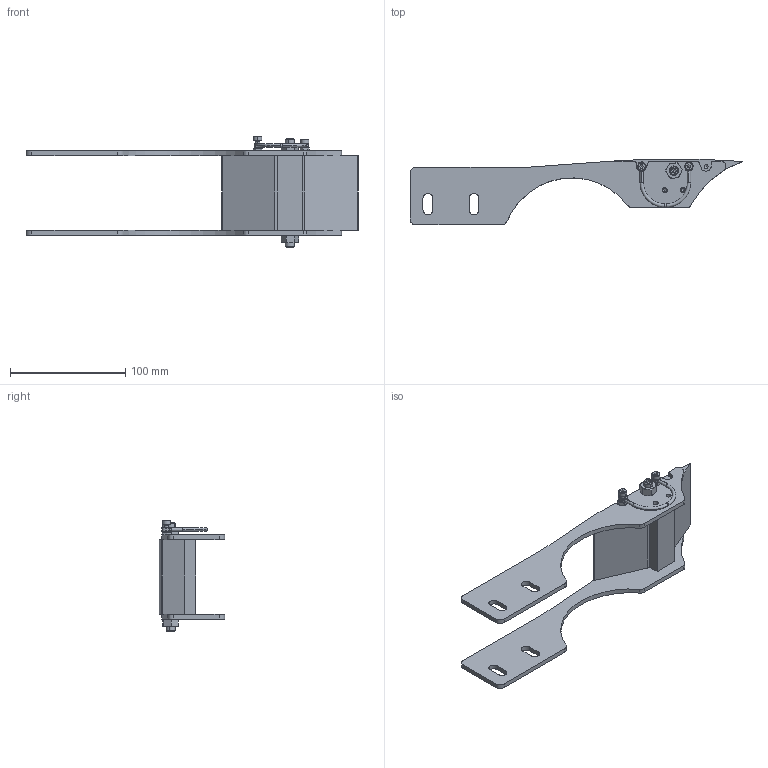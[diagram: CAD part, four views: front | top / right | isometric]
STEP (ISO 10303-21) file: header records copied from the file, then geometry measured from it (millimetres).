
FILE_DESCRIPTION (( 'STEP AP214' ), '1' );
FILE_NAME ('FSTB A65P.step', '2017-04-07T11:10:10', ( '' ), ( '' ), 'SwSTEP 2.0', 'SolidWorks 2016', '' );
FILE_SCHEMA (( 'AUTOMOTIVE_DESIGN' ));
Length unit declared in the file: millimetre
Products named in the file (1): FSTB A65P
Bounding box: 288.09 x 57 x 96.77 mm (x, y, z)
Surface area: 70796.7 mm2 (no closed solid volume)
Topology: 0 solids, 16 shells, 453 faces, 1107 edges, 664 vertices
Faces by surface type: plane 180, cylinder 133, cone 124, bspline 8, torus 8
Entity records: 18706 total; most frequent: CARTESIAN_POINT 3049, DIRECTION 2245, ORIENTED_EDGE 2138, EDGE_CURVE 1071, AXIS2_PLACEMENT_3D 868, VERTEX_POINT 664, VECTOR 509, LINE 509
